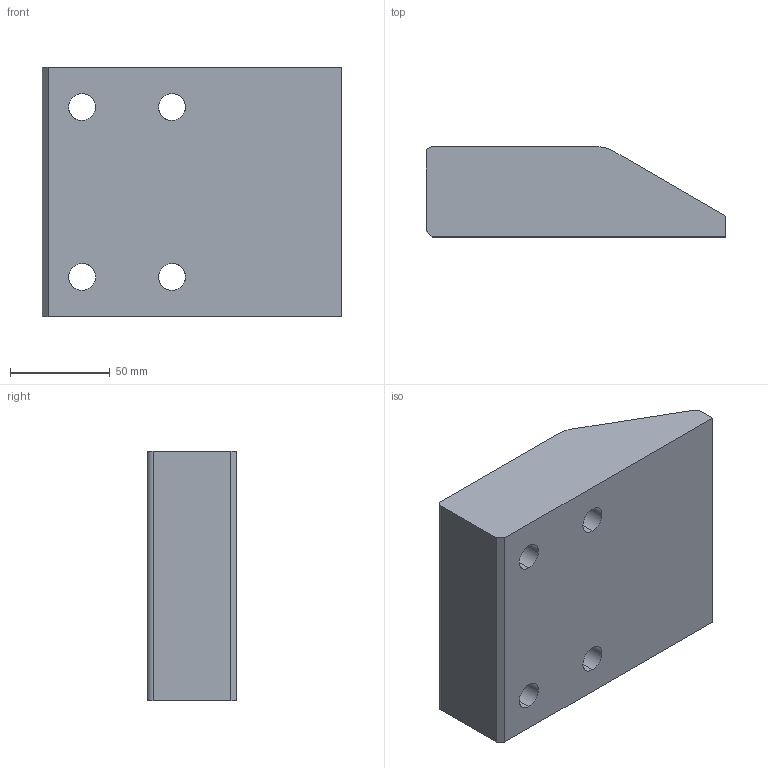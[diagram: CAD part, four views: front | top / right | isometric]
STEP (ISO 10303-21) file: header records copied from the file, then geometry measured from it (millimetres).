
FILE_DESCRIPTION(('CATIA V5 STEP Exchange'),'2;1');
FILE_NAME('C:\Users\Raffaele\Desktop\3D X SITO CF\A935\GSB_OILLESS_G2290112515045\STEP-2.03\A935-12515045.stp','2019-07-12T07:18:54+00:00',('none'),('none'),'CATIA Version 5 Release 20 GA (IN-10)','CATIA V5 STEP AP203','none');
FILE_SCHEMA(('CONFIG_CONTROL_DESIGN'));
Length unit declared in the file: millimetre
Products named in the file (1): A935-12515045
Bounding box: 150 x 45 x 125 mm (x, y, z)
Volume: 666003.4 mm3; surface area: 65172.9 mm2
Topology: 1 solids, 1 shells, 39 faces, 131 edges, 98 vertices
Faces by surface type: cylinder 19, plane 12, torus 8
Entity records: 1691 total; most frequent: CARTESIAN_POINT 493, ORIENTED_EDGE 262, DIRECTION 193, EDGE_CURVE 131, AXIS2_PLACEMENT_3D 118, VERTEX_POINT 98, CIRCLE 78, EDGE_LOOP 51
